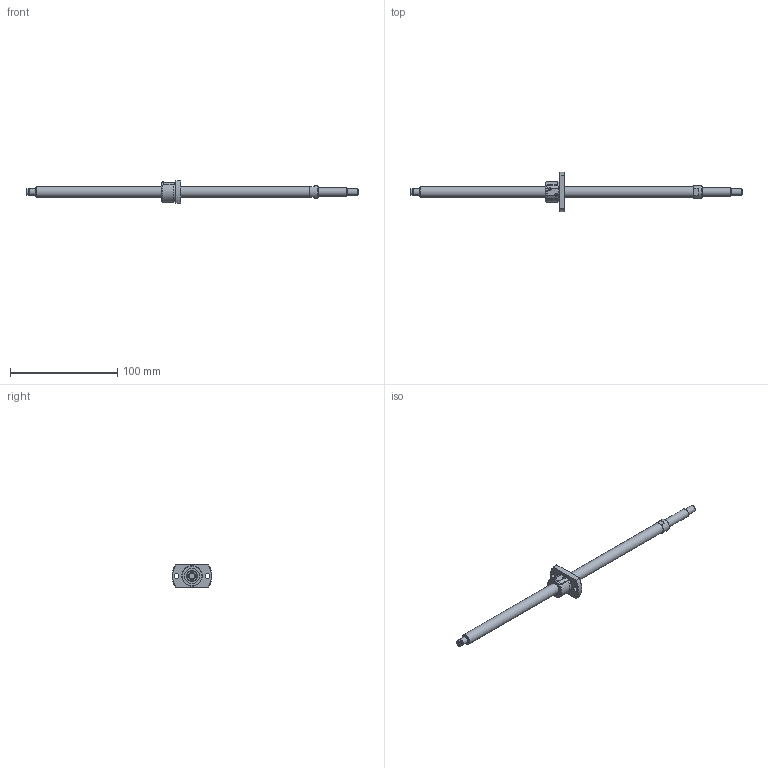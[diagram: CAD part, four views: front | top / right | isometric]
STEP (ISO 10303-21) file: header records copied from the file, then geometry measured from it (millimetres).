
FILE_DESCRIPTION(/* description */ ('STEP AP214'),/* implementation_level */ '2;1');
FILE_NAME(/* name */ 'SG1001-253R310C5B0X(117.5)',/* time_stamp */ '2026-07-24T15:12:23+02:00',/* author */ ('License CC BY-ND 4.0'),/* organization */ ('CADENAS'),/* preprocessor_version */ 'ST-DEVELOPER v20',/* originating_system */ 'PARTsolutions',/* authorisation */ ' ');
FILE_SCHEMA (('AUTOMOTIVE_DESIGN {1 0 10303 214 3 1 1}'));
Length unit declared in the file: millimetre
Products named in the file (3): SG1001-253R310C5B0X(117.5); SG1001-253R310C5B_shaft; SG1001 C5_nut
Assembly tree (2 placements, depth 2):
  SG1001-253R310C5B0X(117.5)
    SG1001-253R310C5B_shaft
    SG1001 C5_nut
Bounding box: 310 x 36.86 x 21 mm (x, y, z)
Volume: 28289.5 mm3; surface area: 12830.9 mm2
Topology: 2 solids, 2 shells, 81 faces, 194 edges, 127 vertices
Faces by surface type: plane 38, cylinder 28, cone 14, torus 1
Full cylindrical faces by diameter (mm): 4.5 x2, 5.7 x1, 6 x3, 8 x1, 10 x2, 11.5 x1, 14 x2, 18.5 x1, 19 x1
Entity records: 2265 total; most frequent: CARTESIAN_POINT 428, DIRECTION 382, ORIENTED_EDGE 318, AXIS2_PLACEMENT_3D 161, EDGE_CURVE 159, EDGE_LOOP 122, FACE_BOUND 122, VERTEX_POINT 117
